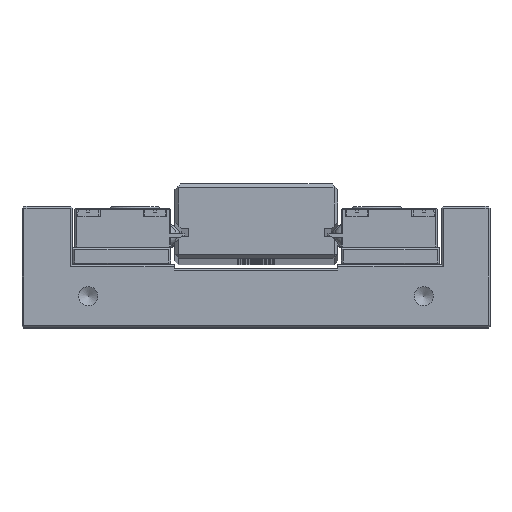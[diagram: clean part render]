
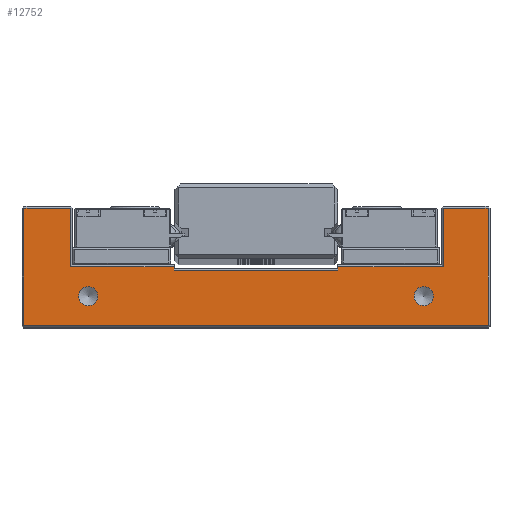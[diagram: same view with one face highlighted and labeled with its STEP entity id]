
A CAD part, top view. The second image highlights one B-rep face of the part: STEP entity #12752.
In plain terms, the highlighted planar face has unit normal (0, 0, 1).
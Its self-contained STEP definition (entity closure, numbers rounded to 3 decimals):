
#421=FACE_BOUND('',#2328,.T.);
#422=FACE_BOUND('',#2329,.T.);
#943=PLANE('',#13843);
#1562=FACE_OUTER_BOUND('',#2327,.T.);
#2327=EDGE_LOOP('',(#10696,#10697,#10698,#10699,#10700,#10701,#10702,#10703,
#10704,#10705,#10706,#10707));
#2328=EDGE_LOOP('',(#10708));
#2329=EDGE_LOOP('',(#10709));
#3343=LINE('',#21012,#4383);
#3415=LINE('',#21226,#4455);
#3444=LINE('',#21280,#4484);
#3446=LINE('',#21283,#4486);
#3448=LINE('',#21287,#4488);
#3449=LINE('',#21289,#4489);
#3451=LINE('',#21293,#4491);
#3452=LINE('',#21295,#4492);
#3455=LINE('',#21300,#4495);
#3457=LINE('',#21304,#4497);
#3459=LINE('',#21308,#4499);
#3460=LINE('',#21310,#4500);
#4383=VECTOR('',#16404,10.);
#4455=VECTOR('',#16628,10.);
#4484=VECTOR('',#16691,10.);
#4486=VECTOR('',#16695,10.);
#4488=VECTOR('',#16701,10.);
#4489=VECTOR('',#16704,10.);
#4491=VECTOR('',#16710,10.);
#4492=VECTOR('',#16713,10.);
#4495=VECTOR('',#16718,10.);
#4497=VECTOR('',#16722,10.);
#4499=VECTOR('',#16728,10.);
#4500=VECTOR('',#16731,10.);
#4959=CIRCLE('',#13844,2.459);
#4960=CIRCLE('',#13845,2.459);
#5916=VERTEX_POINT('',#21005);
#5919=VERTEX_POINT('',#21010);
#5977=VERTEX_POINT('',#21191);
#5982=VERTEX_POINT('',#21209);
#5984=VERTEX_POINT('',#21223);
#5985=VERTEX_POINT('',#21225);
#5986=VERTEX_POINT('',#21229);
#5988=VERTEX_POINT('',#21241);
#5989=VERTEX_POINT('',#21246);
#5991=VERTEX_POINT('',#21264);
#5994=VERTEX_POINT('',#21299);
#5995=VERTEX_POINT('',#21303);
#5996=VERTEX_POINT('',#21311);
#5997=VERTEX_POINT('',#21313);
#7487=EDGE_CURVE('',#5919,#5916,#3343,.T.);
#7593=EDGE_CURVE('',#5984,#5985,#3415,.T.);
#7622=EDGE_CURVE('',#5988,#5991,#3444,.T.);
#7624=EDGE_CURVE('',#5991,#5989,#3446,.T.);
#7626=EDGE_CURVE('',#5989,#5986,#3448,.T.);
#7627=EDGE_CURVE('',#5985,#5988,#3449,.T.);
#7629=EDGE_CURVE('',#5986,#5982,#3451,.T.);
#7630=EDGE_CURVE('',#5982,#5977,#3452,.T.);
#7633=EDGE_CURVE('',#5977,#5994,#3455,.T.);
#7635=EDGE_CURVE('',#5994,#5995,#3457,.T.);
#7637=EDGE_CURVE('',#5919,#5995,#3459,.T.);
#7638=EDGE_CURVE('',#5984,#5916,#3460,.T.);
#7639=EDGE_CURVE('',#5996,#5996,#4959,.T.);
#7640=EDGE_CURVE('',#5997,#5997,#4960,.T.);
#10696=ORIENTED_EDGE('',*,*,#7637,.T.);
#10697=ORIENTED_EDGE('',*,*,#7635,.F.);
#10698=ORIENTED_EDGE('',*,*,#7633,.F.);
#10699=ORIENTED_EDGE('',*,*,#7630,.F.);
#10700=ORIENTED_EDGE('',*,*,#7629,.F.);
#10701=ORIENTED_EDGE('',*,*,#7626,.F.);
#10702=ORIENTED_EDGE('',*,*,#7624,.F.);
#10703=ORIENTED_EDGE('',*,*,#7622,.F.);
#10704=ORIENTED_EDGE('',*,*,#7627,.F.);
#10705=ORIENTED_EDGE('',*,*,#7593,.F.);
#10706=ORIENTED_EDGE('',*,*,#7638,.T.);
#10707=ORIENTED_EDGE('',*,*,#7487,.F.);
#10708=ORIENTED_EDGE('',*,*,#7639,.T.);
#10709=ORIENTED_EDGE('',*,*,#7640,.T.);
#12752=ADVANCED_FACE('',(#1562,#421,#422),#943,.T.);
#13843=AXIS2_PLACEMENT_3D('',#21309,#16729,#16730);
#13844=AXIS2_PLACEMENT_3D('',#21312,#16732,#16733);
#13845=AXIS2_PLACEMENT_3D('',#21314,#16734,#16735);
#16404=DIRECTION('',(1.,0.,0.));
#16628=DIRECTION('',(1.,0.,0.));
#16691=DIRECTION('',(1.,0.,0.));
#16695=DIRECTION('',(0.,-1.,0.));
#16701=DIRECTION('',(-1.,0.,0.));
#16704=DIRECTION('',(0.,1.,0.));
#16710=DIRECTION('',(0.,1.,0.));
#16713=DIRECTION('',(1.,0.,0.));
#16718=DIRECTION('',(0.,-1.,0.));
#16722=DIRECTION('',(1.,0.,0.));
#16728=DIRECTION('',(0.,1.,0.));
#16729=DIRECTION('center_axis',(0.,0.,1.));
#16730=DIRECTION('ref_axis',(1.,0.,0.));
#16731=DIRECTION('',(0.,-1.,0.));
#16732=DIRECTION('center_axis',(0.,0.,-1.));
#16733=DIRECTION('ref_axis',(-1.,0.,0.));
#16734=DIRECTION('center_axis',(0.,0.,-1.));
#16735=DIRECTION('ref_axis',(-1.,0.,0.));
#21005=CARTESIAN_POINT('',(23.66,11.195,52.5));
#21010=CARTESIAN_POINT('',(-18.34,11.195,52.5));
#21012=CARTESIAN_POINT('',(13.16,11.195,52.5));
#21191=CARTESIAN_POINT('',(-44.84,26.995,52.5));
#21209=CARTESIAN_POINT('',(-56.84,26.995,52.5));
#21223=CARTESIAN_POINT('',(23.66,11.995,52.5));
#21225=CARTESIAN_POINT('',(50.66,11.995,52.5));
#21226=CARTESIAN_POINT('',(26.41,11.995,52.5));
#21229=CARTESIAN_POINT('',(-56.84,-3.005,52.5));
#21241=CARTESIAN_POINT('',(50.66,26.995,52.5));
#21246=CARTESIAN_POINT('',(62.16,-3.005,52.5));
#21264=CARTESIAN_POINT('',(62.16,26.995,52.5));
#21280=CARTESIAN_POINT('',(32.66,26.995,52.5));
#21283=CARTESIAN_POINT('',(62.16,4.245,52.5));
#21287=CARTESIAN_POINT('',(-27.34,-3.005,52.5));
#21289=CARTESIAN_POINT('',(50.66,19.745,52.5));
#21293=CARTESIAN_POINT('',(-56.84,19.745,52.5));
#21295=CARTESIAN_POINT('',(-20.84,26.995,52.5));
#21299=CARTESIAN_POINT('',(-44.84,11.995,52.5));
#21300=CARTESIAN_POINT('',(-44.84,12.245,52.5));
#21303=CARTESIAN_POINT('',(-18.34,11.995,52.5));
#21304=CARTESIAN_POINT('',(-7.84,11.995,52.5));
#21308=CARTESIAN_POINT('',(-18.34,11.695,52.5));
#21309=CARTESIAN_POINT('Origin',(2.66,11.995,52.5));
#21310=CARTESIAN_POINT('',(23.66,12.495,52.5));
#21311=CARTESIAN_POINT('',(-37.881,4.495,52.5));
#21312=CARTESIAN_POINT('Origin',(-40.34,4.495,52.5));
#21313=CARTESIAN_POINT('',(48.119,4.495,52.5));
#21314=CARTESIAN_POINT('Origin',(45.66,4.495,52.5));
